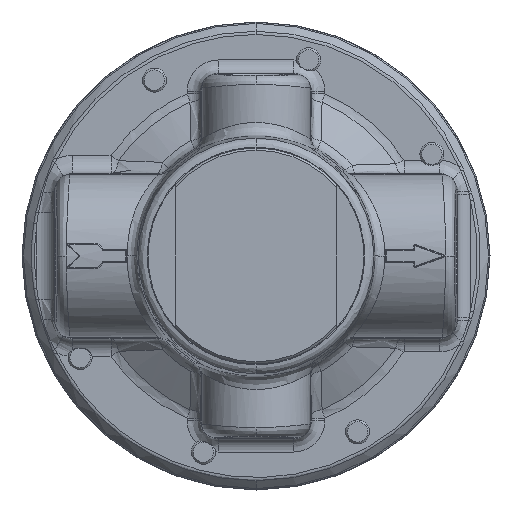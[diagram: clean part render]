
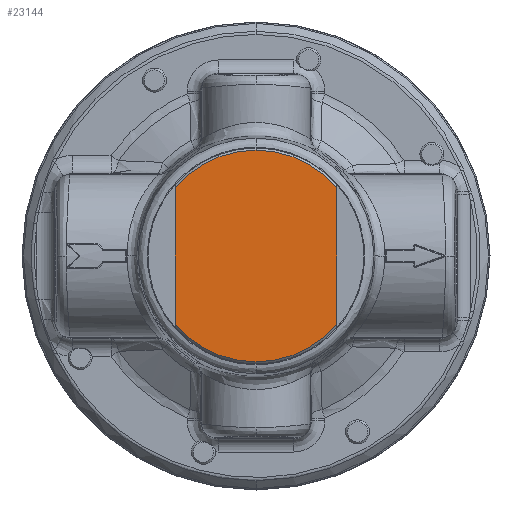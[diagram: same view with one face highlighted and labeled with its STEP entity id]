
A CAD part, front view. The second image highlights one B-rep face of the part: STEP entity #23144.
In plain terms, the highlighted planar face has unit normal (0, -1, 0).
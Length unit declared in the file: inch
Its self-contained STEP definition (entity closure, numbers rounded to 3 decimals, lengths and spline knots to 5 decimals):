
#3405 = VERTEX_POINT ( 'NONE', #12428 ) ;
#4694 = AXIS2_PLACEMENT_3D ( 'NONE', #24783, #24798, #24800 ) ;
#4979 = AXIS2_PLACEMENT_3D ( 'NONE', #31324, #31325, #31326 ) ;
#4981 = VECTOR ( 'NONE', #31327, 39.37008 ) ;
#4982 = AXIS2_PLACEMENT_3D ( 'NONE', #31317, #31318, #31319 ) ;
#4983 = VECTOR ( 'NONE', #31321, 39.37008 ) ;
#4985 = CIRCLE ( 'NONE', #4979, 0.7325 ) ;
#4987 = CIRCLE ( 'NONE', #4982, 0.7325 ) ;
#12428 = CARTESIAN_POINT ( 'NONE',  ( 0.55875, -1.906, 0.47366 ) ) ;
#18432 = CARTESIAN_POINT ( 'NONE',  ( -0.55875, -1.906, -0.47366 ) ) ;
#19976 = CARTESIAN_POINT ( 'NONE',  ( 0., -1.906, 0. ) ) ;
#19977 = DIRECTION ( 'NONE',  ( 0., 1., 0. ) ) ;
#19978 = DIRECTION ( 'NONE',  ( 0., 0., 1. ) ) ;
#21189 = EDGE_CURVE ( 'NONE', #46180, #37791, #4987, .T. ) ;
#21190 = EDGE_CURVE ( 'NONE', #47976, #37791, #31297, .T. ) ;
#21191 = EDGE_CURVE ( 'NONE', #48253, #3405, #4985, .T. ) ;
#21192 = EDGE_CURVE ( 'NONE', #3405, #46180, #31323, .T. ) ;
#23144 = ADVANCED_FACE ( 'NONE', ( #24790 ), #24792, .T. ) ;
#23588 = EDGE_CURVE ( 'NONE', #47976, #48253, #42085, .T. ) ;
#24783 = CARTESIAN_POINT ( 'NONE',  ( 0., -1.906, 0. ) ) ;
#24790 = FACE_OUTER_BOUND ( 'NONE', #38093, .T. ) ;
#24792 = PLANE ( 'NONE',  #4694 ) ;
#24798 = DIRECTION ( 'NONE',  ( 0., -1., 0. ) ) ;
#24800 = DIRECTION ( 'NONE',  ( 1., 0., 0. ) ) ;
#31297 = LINE ( 'NONE', #31313, #4983 ) ;
#31313 = CARTESIAN_POINT ( 'NONE',  ( -0.55875, -1.906, -0.7475 ) ) ;
#31317 = CARTESIAN_POINT ( 'NONE',  ( 0., -1.906, 0. ) ) ;
#31318 = DIRECTION ( 'NONE',  ( 0., 1., 0. ) ) ;
#31319 = DIRECTION ( 'NONE',  ( 0., 0., 1. ) ) ;
#31320 = CARTESIAN_POINT ( 'NONE',  ( 0.55875, -1.906, -0.7475 ) ) ;
#31321 = DIRECTION ( 'NONE',  ( 0., 0., -1. ) ) ;
#31323 = LINE ( 'NONE', #31320, #4981 ) ;
#31324 = CARTESIAN_POINT ( 'NONE',  ( 0., -1.906, 0. ) ) ;
#31325 = DIRECTION ( 'NONE',  ( 0., 1., 0. ) ) ;
#31326 = DIRECTION ( 'NONE',  ( 0., 0., 1. ) ) ;
#31327 = DIRECTION ( 'NONE',  ( 0., 0., -1. ) ) ;
#36501 = ORIENTED_EDGE ( 'NONE', *, *, #21189, .F. ) ;
#36902 = ORIENTED_EDGE ( 'NONE', *, *, #23588, .F. ) ;
#37017 = ORIENTED_EDGE ( 'NONE', *, *, #21192, .F. ) ;
#37033 = ORIENTED_EDGE ( 'NONE', *, *, #21191, .F. ) ;
#37034 = ORIENTED_EDGE ( 'NONE', *, *, #21190, .T. ) ;
#37791 = VERTEX_POINT ( 'NONE', #18432 ) ;
#38093 = EDGE_LOOP ( 'NONE', ( #37017, #37033, #36902, #37034, #36501 ) ) ;
#42085 = CIRCLE ( 'NONE', #42108, 0.7325 ) ;
#42108 = AXIS2_PLACEMENT_3D ( 'NONE', #19976, #19977, #19978 ) ;
#44437 = CARTESIAN_POINT ( 'NONE',  ( -0.55875, -1.906, 0.47366 ) ) ;
#44714 = CARTESIAN_POINT ( 'NONE',  ( 0., -1.906, 0.7325 ) ) ;
#46180 = VERTEX_POINT ( 'NONE', #47197 ) ;
#47197 = CARTESIAN_POINT ( 'NONE',  ( 0.55875, -1.906, -0.47366 ) ) ;
#47976 = VERTEX_POINT ( 'NONE', #44437 ) ;
#48253 = VERTEX_POINT ( 'NONE', #44714 ) ;
